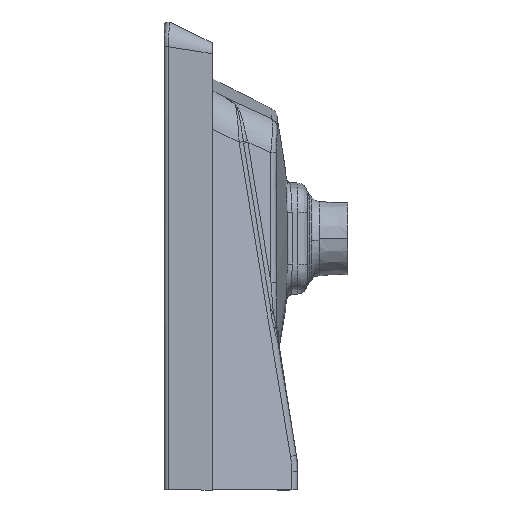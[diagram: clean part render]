
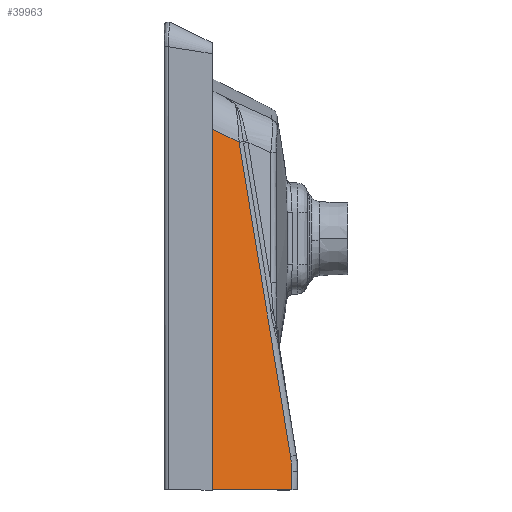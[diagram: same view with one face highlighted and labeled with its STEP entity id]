
A CAD part, left-side view. The second image highlights one B-rep face of the part: STEP entity #39963.
In plain terms, the highlighted planar face has unit normal (-0.892, -0.451, 0).
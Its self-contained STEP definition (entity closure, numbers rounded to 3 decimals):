
#184 = EDGE_CURVE ( 'NONE', #37839, #15023, #27673, .T. ) ;
#1516 = CARTESIAN_POINT ( 'NONE',  ( -240.302, -119.51, -218.202 ) ) ;
#1528 = CARTESIAN_POINT ( 'NONE',  ( -281.069, -38.824, 105.728 ) ) ;
#1722 = CARTESIAN_POINT ( 'NONE',  ( -240.302, -119.51, -235.066 ) ) ;
#1966 = CARTESIAN_POINT ( 'NONE',  ( -281.069, -38.824, 105.728 ) ) ;
#2095 = DIRECTION ( 'NONE',  ( -0.182, 0.361, 0.915 ) ) ;
#2335 = DIRECTION ( 'NONE',  ( 0.081, -0.161, -0.984 ) ) ;
#2479 = EDGE_CURVE ( 'NONE', #24417, #14175, #13478, .T. ) ;
#3434 = EDGE_CURVE ( 'NONE', #37839, #14175, #37678, .T. ) ;
#3894 = CARTESIAN_POINT ( 'NONE',  ( -240.302, -119.51, -235.066 ) ) ;
#4529 = CARTESIAN_POINT ( 'NONE',  ( -281.069, -38.824, 105.728 ) ) ;
#5102 = VERTEX_POINT ( 'NONE', #9365 ) ;
#6534 = ORIENTED_EDGE ( 'NONE', *, *, #2479, .T. ) ;
#7354 = CARTESIAN_POINT ( 'NONE',  ( -281.069, -38.824, -235.066 ) ) ;
#8605 = CARTESIAN_POINT ( 'NONE',  ( -148.858, -300.492, -240.706 ) ) ;
#8956 = CARTESIAN_POINT ( 'NONE',  ( -240.302, -119.51, -215.767 ) ) ;
#9365 = CARTESIAN_POINT ( 'NONE',  ( -240.9, -118.326, -203.653 ) ) ;
#9751 = CARTESIAN_POINT ( 'NONE',  ( -240.551, -119.015, -208.474 ) ) ;
#13478 = B_SPLINE_CURVE_WITH_KNOTS ( 'NONE', 3,
 ( #1528, #23518, #38768, #32249 ),
 .UNSPECIFIED., .F., .F.,
 ( 4, 4 ),
 ( 0., 1. ),
 .UNSPECIFIED. ) ;
#13642 = CARTESIAN_POINT ( 'NONE',  ( -267.48, -65.719, -235.066 ) ) ;
#14175 = VERTEX_POINT ( 'NONE', #15022 ) ;
#15022 = CARTESIAN_POINT ( 'NONE',  ( -281.069, -38.824, -235.066 ) ) ;
#15023 = VERTEX_POINT ( 'NONE', #39542 ) ;
#16760 = CARTESIAN_POINT ( 'NONE',  ( -265.193, -70.246, 89.844 ) ) ;
#16958 = CARTESIAN_POINT ( 'NONE',  ( -275.777, -49.298, 100.434 ) ) ;
#17392 = CARTESIAN_POINT ( 'NONE',  ( -240.302, -119.51, -229.445 ) ) ;
#18882 = CARTESIAN_POINT ( 'NONE',  ( -265.193, -70.246, 89.844 ) ) ;
#21029 = DIRECTION ( 'NONE',  ( -0.893, -0.451, 0. ) ) ;
#21375 = CARTESIAN_POINT ( 'NONE',  ( -240.9, -118.326, -203.653 ) ) ;
#23078 = EDGE_CURVE ( 'NONE', #26679, #5102, #30206, .T. ) ;
#23518 = CARTESIAN_POINT ( 'NONE',  ( -281.069, -38.824, -7.87 ) ) ;
#23585 = EDGE_CURVE ( 'NONE', #15023, #5102, #34622, .T. ) ;
#24170 = ORIENTED_EDGE ( 'NONE', *, *, #23078, .F. ) ;
#24417 = VERTEX_POINT ( 'NONE', #1966 ) ;
#24600 = CARTESIAN_POINT ( 'NONE',  ( -240.701, -118.72, -206.057 ) ) ;
#25004 = CARTESIAN_POINT ( 'NONE',  ( -240.352, -119.411, -213.334 ) ) ;
#25202 = VECTOR ( 'NONE', #2335, 1000. ) ;
#25543 = EDGE_CURVE ( 'NONE', #26679, #24417, #38381, .T. ) ;
#25665 = CARTESIAN_POINT ( 'NONE',  ( -253.891, -92.614, -235.066 ) ) ;
#26304 = CARTESIAN_POINT ( 'NONE',  ( -270.485, -59.772, 95.139 ) ) ;
#26539 = CARTESIAN_POINT ( 'NONE',  ( -240.302, -119.51, -223.824 ) ) ;
#26679 = VERTEX_POINT ( 'NONE', #18882 ) ;
#27113 = FACE_OUTER_BOUND ( 'NONE', #29565, .T. ) ;
#27673 = B_SPLINE_CURVE_WITH_KNOTS ( 'NONE', 3,
 ( #1722, #17392, #26539, #1516 ),
 .UNSPECIFIED., .F., .F.,
 ( 4, 4 ),
 ( 0., 1. ),
 .UNSPECIFIED. ) ;
#29211 = AXIS2_PLACEMENT_3D ( 'NONE', #8605, #21029, #2095 ) ;
#29565 = EDGE_LOOP ( 'NONE', ( #29960, #24170, #38159, #6534, #29591, #32378 ) ) ;
#29591 = ORIENTED_EDGE ( 'NONE', *, *, #3434, .F. ) ;
#29960 = ORIENTED_EDGE ( 'NONE', *, *, #23585, .T. ) ;
#30206 = LINE ( 'NONE', #33860, #25202 ) ;
#30885 = CARTESIAN_POINT ( 'NONE',  ( -240.302, -119.51, -218.202 ) ) ;
#32249 = CARTESIAN_POINT ( 'NONE',  ( -281.069, -38.824, -235.066 ) ) ;
#32378 = ORIENTED_EDGE ( 'NONE', *, *, #184, .T. ) ;
#33860 = CARTESIAN_POINT ( 'NONE',  ( -253.046, -94.286, -56.904 ) ) ;
#34147 = CARTESIAN_POINT ( 'NONE',  ( -240.302, -119.51, -235.066 ) ) ;
#34622 = B_SPLINE_CURVE_WITH_KNOTS ( 'NONE', 3,
 ( #30885, #8956, #25004, #9751, #24600, #21375 ),
 .UNSPECIFIED., .F., .F.,
 ( 4, 2, 4 ),
 ( 0., 0.5, 1. ),
 .UNSPECIFIED. ) ;
#36474 = PLANE ( 'NONE',  #29211 ) ;
#37678 = B_SPLINE_CURVE_WITH_KNOTS ( 'NONE', 3,
 ( #3894, #25665, #13642, #7354 ),
 .UNSPECIFIED., .F., .F.,
 ( 4, 4 ),
 ( 0., 1. ),
 .UNSPECIFIED. ) ;
#37839 = VERTEX_POINT ( 'NONE', #34147 ) ;
#38159 = ORIENTED_EDGE ( 'NONE', *, *, #25543, .T. ) ;
#38381 = B_SPLINE_CURVE_WITH_KNOTS ( 'NONE', 3,
 ( #16760, #26304, #16958, #4529 ),
 .UNSPECIFIED., .F., .F.,
 ( 4, 4 ),
 ( 0., 1. ),
 .UNSPECIFIED. ) ;
#38768 = CARTESIAN_POINT ( 'NONE',  ( -281.069, -38.824, -121.468 ) ) ;
#39542 = CARTESIAN_POINT ( 'NONE',  ( -240.302, -119.51, -218.202 ) ) ;
#39963 = ADVANCED_FACE ( 'NONE', ( #27113 ), #36474, .T. ) ;
